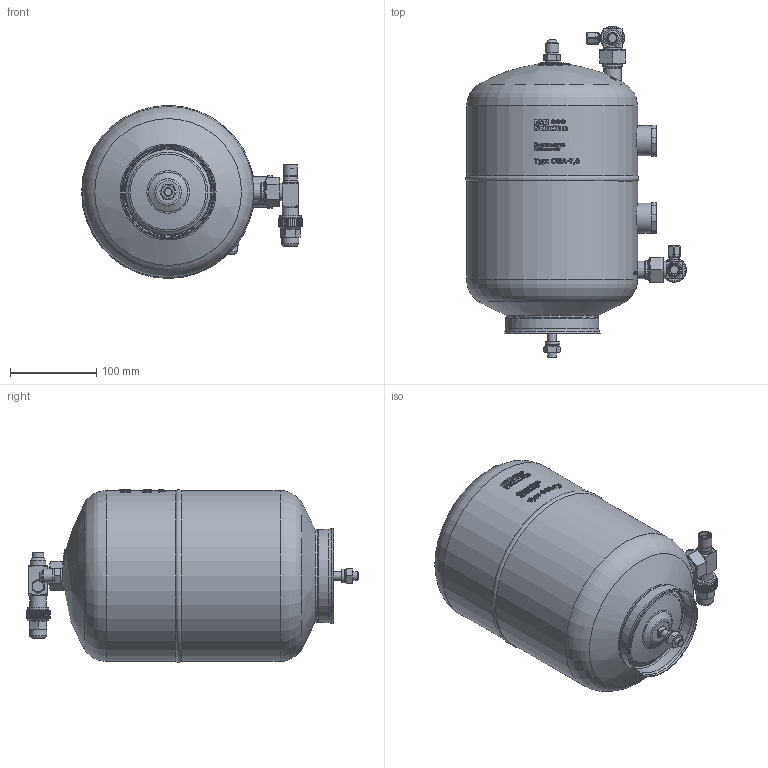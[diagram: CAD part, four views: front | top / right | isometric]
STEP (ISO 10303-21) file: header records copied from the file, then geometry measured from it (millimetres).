
FILE_DESCRIPTION(/* description */ (''),/* implementation_level */ '2;1');
FILE_NAME(/* name */ 'P:\OSA\OSA-7,5\OSA-7,5.stp',/* time_stamp */ '2017-10-05T08:51:07+02:00',/* author */ ('neufeld'),/* organization */ (''),/* preprocessor_version */ 'ST-DEVELOPER v16.1',/* originating_system */ 'Autodesk Inventor 2016',/* authorisation */ '');
FILE_SCHEMA (('AUTOMOTIVE_DESIGN { 1 0 10303 214 3 1 1 }'));
Length unit declared in the file: millimetre
Products named in the file (5): OSA-7,5_1_1; OSA-7,5_2; OSA-7,5_3; OSA-7,5_4; OSA-7,5
Assembly tree (4 placements, depth 2):
  OSA-7,5
    OSA-7,5_1_1
    OSA-7,5_2
    OSA-7,5_3
    OSA-7,5_4
Bounding box: 255.78 x 384.8 x 200.48 mm (x, y, z)
Volume: 8421449.8 mm3; surface area: 274514 mm2
Topology: 4 solids, 12 shells, 2238 faces, 5919 edges, 3893 vertices
Faces by surface type: plane 1148, bspline 585, cylinder 295, cone 134, sphere 55, torus 21
Full cylindrical faces by diameter (mm): 4 x2, 6.5 x2, 7.2 x1, 7.87 x1, 8 x1, 9 x2, 9.2 x1, 9.4 x1, 9.5 x2, 10 x2, 10.1 x2, 10.2 x1, 10.72 x2, 11 x2, 12.1 x1, 12.9 x1, 13 x1, 13.3 x2, 13.5 x4, 14 x1, 14.2 x2, 15.312 x1, 15.75 x2, 15.87 x2, 16 x3, 16.7 x2, 16.8 x2, 17 x1, 17.3 x2, 18 x1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
Entity records: 84227 total; most frequent: CARTESIAN_POINT 32519, ORIENTED_EDGE 11434, DIRECTION 9474, EDGE_CURVE 5705, VERTEX_POINT 3848, AXIS2_PLACEMENT_3D 3505, EDGE_LOOP 2599, LINE 2464
